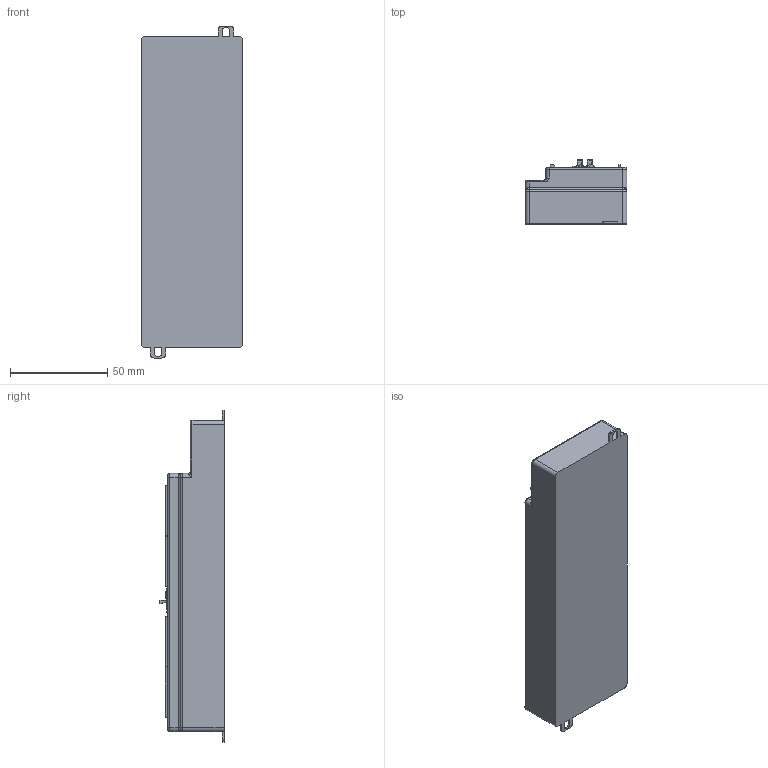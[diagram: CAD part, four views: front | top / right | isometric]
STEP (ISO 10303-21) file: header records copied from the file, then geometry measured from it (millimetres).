
FILE_DESCRIPTION(/* description */ (''),/* implementation_level */ '2;1');
FILE_NAME(/* name */ 'DN32.stp',/* time_stamp */ '2022-01-13T18:52:45+08:00',/* author */ (''),/* organization */ (''),/* preprocessor_version */ 'ST-DEVELOPER v16',/* originating_system */ 'SIEMENS PLM Software NX 10.0',/* authorisation */ '');
FILE_SCHEMA (('AP203_CONFIGURATION_CONTROLLED_3D_DESIGN_OF_MECHANICAL_PARTS_AND_ASSEMBLIES_MIM_LF { 1 0 10303 403 2 1 2}'));
Products named in the file (1): 73494C981A9Cmlz1
Bounding box: 52.4 x 33.2 x 171.1 mm (x, y, z)
Volume: 138184.6 mm3; surface area: 83978.5 mm2
Topology: 26 solids, 28 shells, 5598 faces, 15033 edges, 9677 vertices
Faces by surface type: plane 4592, cylinder 662, bspline 260, torus 76, sphere 8
Entity records: 180967 total; most frequent: CARTESIAN_POINT 41851, ORIENTED_EDGE 30042, DIRECTION 26626, EDGE_CURVE 15021, LINE 12768, VECTOR 12768, VERTEX_POINT 9677, AXIS2_PLACEMENT_3D 6929
